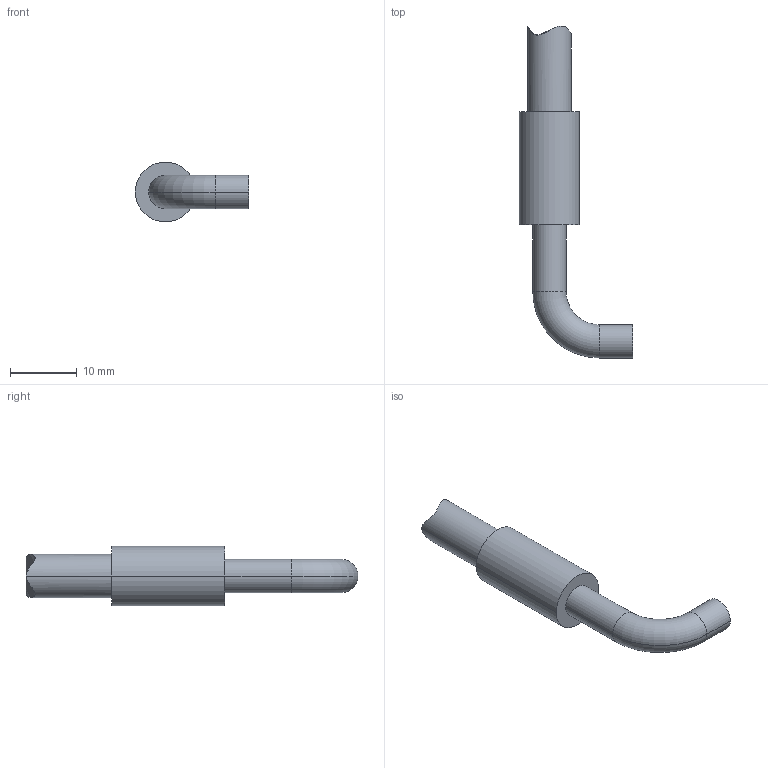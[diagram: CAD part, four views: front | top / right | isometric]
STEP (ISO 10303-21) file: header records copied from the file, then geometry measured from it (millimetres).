
FILE_DESCRIPTION((''),'2;1');
FILE_NAME('0000366385_PRT','2021-03-04T13:39:54',('pdmservice'),(''),'CREO PARAMETRIC BY PTC INC, 2018420','CREO PARAMETRIC BY PTC INC, 2018420','');
FILE_SCHEMA(('AUTOMOTIVE_DESIGN { 1 0 10303 214 1 1 1 1 }'));
Length unit declared in the file: millimetre
Products named in the file (1): 0000366385_PRT
Bounding box: 17 x 49.87 x 9 mm (x, y, z)
Volume: 2011.9 mm3; surface area: 1282.9 mm2
Topology: 1 solids, 1 shells, 17 faces, 32 edges, 20 vertices
Faces by surface type: cylinder 10, plane 4, torus 2, extrusion 1
Entity records: 1560 total; most frequent: CARTESIAN_POINT 176, PROPERTY_DEFINITION 122, REPRESENTATION 121, PROPERTY_DEFINITION_REPRESENTATION 121, DESCRIPTIVE_REPRESENTATION_ITEM 109, GENERAL_PROPERTY 104, GENERAL_PROPERTY_ASSOCIATION 104, DIRECTION 83
